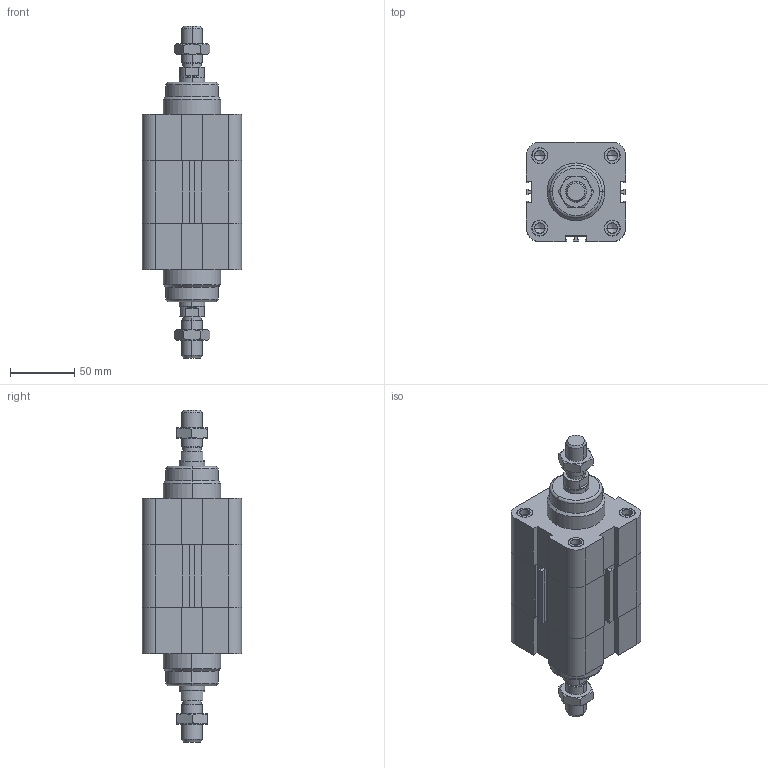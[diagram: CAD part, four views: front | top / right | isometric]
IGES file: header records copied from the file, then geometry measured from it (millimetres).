
Global section: file name: No Iges File Name specified; native system: Autodesk Inventor 2010; preprocessor: AutoDesk Inventor Iges Exporter R2010; author: rivolro1; date: 20090707.105740; units: millimetre
Bounding box: 77.5 x 77.5 x 259 mm (x, y, z)
Volume: 773734.8 mm3; surface area: 132344 mm2
Topology: 6 solids, 6 shells, 343 faces, 810 edges, 508 vertices
Faces by surface type: plane 137, bspline 86, cylinder 58, cone 38, revolution 20, torus 4
